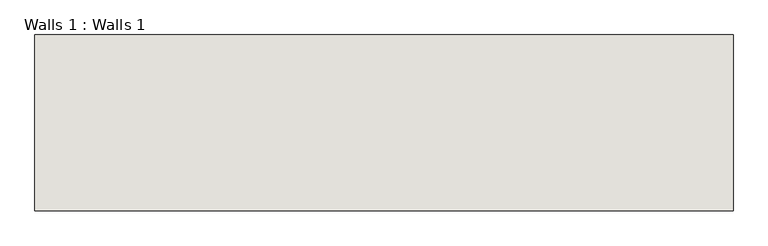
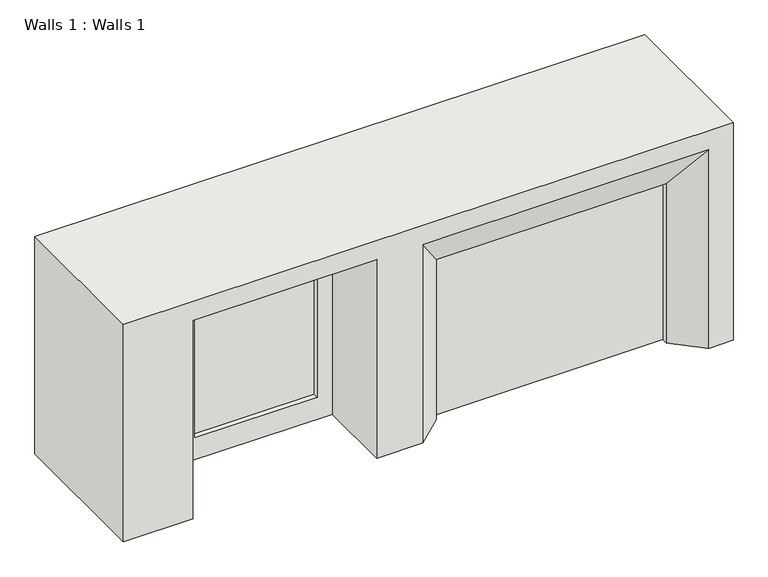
"""IFC4 building model written with IfcOpenShell, lengths in millimetres: wall geometry, Walls 1 : Walls 1."""

from ifc_helpers import new_model, si_unit, origin, place, context, project, spatial, faceted_brep, source, transform, mapped, element, save


def walls_1_walls_1_745c7847(model_context):
    return source(origin(), model_context, "Body", "Brep", [
        faceted_brep([(-3468.5171482, -849.4449025, 3000.0), (-11418.5171482, -849.4449025, 3000.0), (-11418.5171482, -2849.4449025, 3000.0), (-3468.5171482, -2849.4449025, 3000.0), (-3468.5171482, -849.4449025, 0.0), (-3468.5171482, -2849.4449025, 0.0), (-3784.6035401, -2849.4449025, 0.0), (-4150.6899321, -2520.6540008, 0.0), (-4150.6899321, -2442.1502651, 0.0), (-7150.6899321, -2442.1502651, 0.0), (-7150.6899321, -2520.6540008, 0.0), (-7516.7763241, -2849.4449025, 0.0), (-8116.7763241, -2849.4449025, 0.0), (-8116.7763241, -1849.3897122, 0.0), (-10516.7763241, -1849.3897122, 0.0), (-10516.7763241, -2849.4449025, 0.0), (-11418.5171482, -2849.4449025, 0.0), (-11418.5171482, -849.4449025, 0.0), (-10516.7763241, -2849.4449025, 2736.9267082), (-8116.7763241, -2849.4449025, 2736.9267082), (-7516.7763241, -2849.4449025, 2736.9267082), (-3784.6035401, -2849.4449025, 2736.9267082), (-7150.6899321, -2520.6540008, 2200.0), (-4150.6899321, -2520.6540008, 2200.0), (-10516.7763241, -1849.3897122, 2200.0), (-8116.7763241, -1849.3897122, 2200.0), (-8316.7763241, -1849.3897122, 2200.0), (-8316.7763241, -1849.3897122, 300.0), (-9916.7763241, -1849.3897122, 300.0), (-9916.7763241, -1849.3897122, 2200.0), (-4150.6899321, -2442.1502651, 2200.0), (-7150.6899321, -2442.1502651, 2200.0), (-8316.7763241, -1775.9666501, 2200.0), (-9916.7763241, -1775.9666501, 2200.0), (-9916.7763241, -1775.9666501, 300.0), (-8316.7763241, -1775.9666501, 300.0)], [[[0, 1, 2, 3]], [[4, 5, 6, 7, 8, 9, 10, 11, 12, 13, 14, 15, 16, 17]], [[1, 0, 4, 17]], [[2, 1, 17, 16]], [[3, 2, 16, 15, 18, 19, 12, 11, 20, 21, 6, 5]], [[0, 3, 5, 4]], [[20, 22, 23, 21]], [[21, 23, 7, 6]], [[22, 20, 11, 10]], [[24, 14, 13, 25, 26, 27, 28, 29]], [[18, 24, 29, 26, 25, 19]], [[25, 13, 12, 19]], [[14, 24, 18, 15]], [[8, 30, 31, 9]], [[9, 31, 22, 10]], [[31, 30, 23, 22]], [[30, 8, 7, 23]], [[32, 33, 34, 35]], [[32, 35, 27, 26]], [[35, 34, 28, 27]], [[34, 33, 29, 28]], [[33, 32, 26, 29]]]),
    ])


if __name__ == "__main__":
    model = new_model("IFC4")
    model_context = context("Model", 3, world=origin())
    ifc_project = project(units=[si_unit("LENGTHUNIT", "METRE", prefix="MILLI")], contexts=[model_context])
    site = spatial("IfcSite", under=ifc_project)
    building = spatial("IfcBuilding", under=site)
    placement = place(None, origin())
    walls_1_walls_1_shape = walls_1_walls_1_745c7847(model_context)
    element("IfcWall", 1, ObjectType="Walls 1 : Walls 1", at=placement, inside=building, context=model_context, shape_type="MappedRepresentation", body=[
        mapped(walls_1_walls_1_shape, transform((0.0, 0.0, 0.0), x_axis=(1.0, 0.0, 0.0), y_axis=(0.0, 1.0, 0.0), z_axis=(0.0, 0.0, 1.0))),
    ])
    save(model, "model.ifc")
